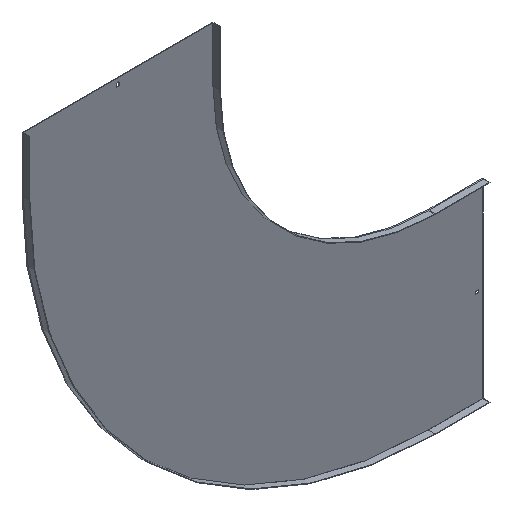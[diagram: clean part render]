
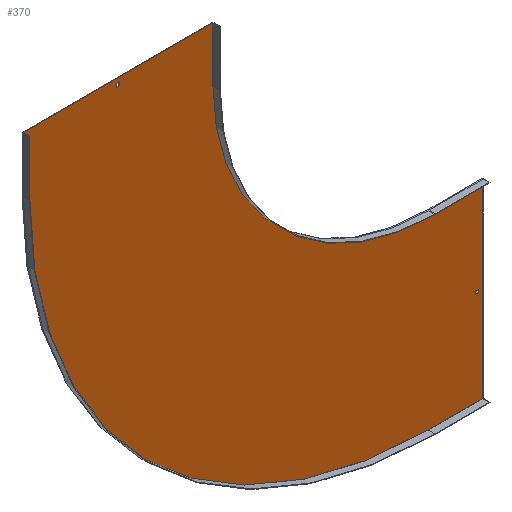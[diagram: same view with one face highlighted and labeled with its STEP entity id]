
A CAD part, isometric view. The second image highlights one B-rep face of the part: STEP entity #370.
In plain terms, the highlighted planar face has unit normal (0, -1, 0).
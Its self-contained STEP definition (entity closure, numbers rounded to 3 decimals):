
#3 = CARTESIAN_POINT ( 'NONE',  ( -1111.5, -1.5, 150. ) ) ;
#10 = CARTESIAN_POINT ( 'NONE',  ( 150., -1.5, -1110. ) ) ;
#11 = ORIENTED_EDGE ( 'NONE', *, *, #529, .F. ) ;
#12 = LINE ( 'NONE', #260, #812 ) ;
#32 = FACE_OUTER_BOUND ( 'NONE', #673, .T. ) ;
#33 = EDGE_CURVE ( 'NONE', #456, #139, #274, .T. ) ;
#36 = CARTESIAN_POINT ( 'NONE',  ( 138., -1.5, 0. ) ) ;
#38 = ORIENTED_EDGE ( 'NONE', *, *, #836, .F. ) ;
#39 = DIRECTION ( 'NONE',  ( 0., 0., 1. ) ) ;
#41 = CARTESIAN_POINT ( 'NONE',  ( -590., -1.5, 150. ) ) ;
#48 = VECTOR ( 'NONE', #704, 1000. ) ;
#52 = CARTESIAN_POINT ( 'NONE',  ( 129., -1.5, 0. ) ) ;
#58 = ORIENTED_EDGE ( 'NONE', *, *, #725, .T. ) ;
#65 = CARTESIAN_POINT ( 'NONE',  ( 0., -1.5, 0. ) ) ;
#80 = FACE_BOUND ( 'NONE', #230, .T. ) ;
#82 = VERTEX_POINT ( 'NONE', #10 ) ;
#85 = LINE ( 'NONE', #695, #839 ) ;
#89 = CARTESIAN_POINT ( 'NONE',  ( 0., -1.5, 0. ) ) ;
#90 = VERTEX_POINT ( 'NONE', #371 ) ;
#92 = LINE ( 'NONE', #363, #634 ) ;
#100 = VECTOR ( 'NONE', #162, 1000. ) ;
#102 = ORIENTED_EDGE ( 'NONE', *, *, #408, .F. ) ;
#114 = VECTOR ( 'NONE', #39, 1000. ) ;
#132 = EDGE_CURVE ( 'NONE', #516, #789, #769, .T. ) ;
#139 = VERTEX_POINT ( 'NONE', #41 ) ;
#148 = LINE ( 'NONE', #282, #195 ) ;
#150 = ORIENTED_EDGE ( 'NONE', *, *, #559, .T. ) ;
#151 = DIRECTION ( 'NONE',  ( 0., 0., -1. ) ) ;
#152 = ORIENTED_EDGE ( 'NONE', *, *, #325, .F. ) ;
#162 = DIRECTION ( 'NONE',  ( 0., 0., -1. ) ) ;
#163 = DIRECTION ( 'NONE',  ( 0., 0., -1. ) ) ;
#169 = VECTOR ( 'NONE', #501, 1000. ) ;
#179 = CARTESIAN_POINT ( 'NONE',  ( 0., -1.5, -590. ) ) ;
#181 = ORIENTED_EDGE ( 'NONE', *, *, #840, .T. ) ;
#191 = CARTESIAN_POINT ( 'NONE',  ( 150., -1.5, -590. ) ) ;
#195 = VECTOR ( 'NONE', #151, 1000. ) ;
#201 = CARTESIAN_POINT ( 'NONE',  ( 0., -1.5, -846.75 ) ) ;
#224 = DIRECTION ( 'NONE',  ( 0., 0., -1. ) ) ;
#227 = CARTESIAN_POINT ( 'NONE',  ( 129., -1.5, -853.25 ) ) ;
#228 = CARTESIAN_POINT ( 'NONE',  ( 0., -1.5, -590. ) ) ;
#230 = EDGE_LOOP ( 'NONE', ( #152, #396, #38, #663 ) ) ;
#234 = ORIENTED_EDGE ( 'NONE', *, *, #284, .F. ) ;
#242 = CARTESIAN_POINT ( 'NONE',  ( 0., -1.5, 129. ) ) ;
#256 = CARTESIAN_POINT ( 'NONE',  ( 0., -1.5, -1110. ) ) ;
#260 = CARTESIAN_POINT ( 'NONE',  ( 150., -1.5, -1110. ) ) ;
#272 = DIRECTION ( 'NONE',  ( 0., -1., 0. ) ) ;
#274 = LINE ( 'NONE', #3, #292 ) ;
#278 = VECTOR ( 'NONE', #607, 1000. ) ;
#280 = EDGE_LOOP ( 'NONE', ( #58, #421, #150, #181 ) ) ;
#282 = CARTESIAN_POINT ( 'NONE',  ( -590., -1.5, 150. ) ) ;
#284 = EDGE_CURVE ( 'NONE', #449, #393, #567, .T. ) ;
#292 = VECTOR ( 'NONE', #595, 1000. ) ;
#298 = DIRECTION ( 'NONE',  ( -1., 0., 0. ) ) ;
#325 = EDGE_CURVE ( 'NONE', #90, #516, #799, .T. ) ;
#340 = VECTOR ( 'NONE', #515, 1000. ) ;
#361 = DIRECTION ( 'NONE',  ( 0., -1., 0. ) ) ;
#363 = CARTESIAN_POINT ( 'NONE',  ( 0., -1.5, -853.25 ) ) ;
#366 = VERTEX_POINT ( 'NONE', #826 ) ;
#370 = ADVANCED_FACE ( 'NONE', ( #80, #32, #552 ), #549, .T. ) ;
#371 = CARTESIAN_POINT ( 'NONE',  ( 138., -1.5, -846.75 ) ) ;
#393 = VERTEX_POINT ( 'NONE', #228 ) ;
#396 = ORIENTED_EDGE ( 'NONE', *, *, #477, .F. ) ;
#400 = DIRECTION ( 'NONE',  ( -1., 0., 0. ) ) ;
#408 = EDGE_CURVE ( 'NONE', #586, #456, #621, .T. ) ;
#411 = CARTESIAN_POINT ( 'NONE',  ( 0., -1.5, 0. ) ) ;
#416 = EDGE_CURVE ( 'NONE', #139, #449, #148, .T. ) ;
#421 = ORIENTED_EDGE ( 'NONE', *, *, #814, .T. ) ;
#438 = VERTEX_POINT ( 'NONE', #543 ) ;
#445 = ORIENTED_EDGE ( 'NONE', *, *, #636, .F. ) ;
#446 = CARTESIAN_POINT ( 'NONE',  ( 129., -1.5, -846.75 ) ) ;
#449 = VERTEX_POINT ( 'NONE', #820 ) ;
#455 = CARTESIAN_POINT ( 'NONE',  ( -853.25, -1.5, 0. ) ) ;
#456 = VERTEX_POINT ( 'NONE', #693 ) ;
#471 = DIRECTION ( 'NONE',  ( 0., 1., 0. ) ) ;
#477 = EDGE_CURVE ( 'NONE', #679, #90, #701, .T. ) ;
#496 = LINE ( 'NONE', #557, #100 ) ;
#499 = VERTEX_POINT ( 'NONE', #657 ) ;
#501 = DIRECTION ( 'NONE',  ( 0., 0., 1. ) ) ;
#515 = DIRECTION ( 'NONE',  ( 0., 0., -1. ) ) ;
#516 = VERTEX_POINT ( 'NONE', #446 ) ;
#519 = CARTESIAN_POINT ( 'NONE',  ( -853.25, -1.5, 138. ) ) ;
#525 = DIRECTION ( 'NONE',  ( -1., 0., 0. ) ) ;
#527 = AXIS2_PLACEMENT_3D ( 'NONE', #411, #272, #538 ) ;
#529 = EDGE_CURVE ( 'NONE', #393, #659, #583, .T. ) ;
#538 = DIRECTION ( 'NONE',  ( 0., 0., -1. ) ) ;
#541 = VECTOR ( 'NONE', #400, 1000. ) ;
#543 = CARTESIAN_POINT ( 'NONE',  ( -853.25, -1.5, 129. ) ) ;
#549 = PLANE ( 'NONE',  #646 ) ;
#552 = FACE_BOUND ( 'NONE', #280, .T. ) ;
#557 = CARTESIAN_POINT ( 'NONE',  ( 150., -1.5, -588.5 ) ) ;
#559 = EDGE_CURVE ( 'NONE', #499, #438, #638, .T. ) ;
#567 = CIRCLE ( 'NONE', #527, 590. ) ;
#570 = ORIENTED_EDGE ( 'NONE', *, *, #731, .F. ) ;
#571 = CIRCLE ( 'NONE', #714, 1110. ) ;
#580 = ORIENTED_EDGE ( 'NONE', *, *, #416, .F. ) ;
#583 = LINE ( 'NONE', #179, #48 ) ;
#586 = VERTEX_POINT ( 'NONE', #837 ) ;
#593 = CARTESIAN_POINT ( 'NONE',  ( 0., -1.5, 138. ) ) ;
#595 = DIRECTION ( 'NONE',  ( 1., 0., 0. ) ) ;
#607 = DIRECTION ( 'NONE',  ( 1., 0., 0. ) ) ;
#621 = LINE ( 'NONE', #684, #169 ) ;
#628 = DIRECTION ( 'NONE',  ( 1., 0., 0. ) ) ;
#634 = VECTOR ( 'NONE', #628, 1000. ) ;
#636 = EDGE_CURVE ( 'NONE', #843, #586, #571, .T. ) ;
#638 = LINE ( 'NONE', #242, #711 ) ;
#641 = DIRECTION ( 'NONE',  ( 0., 0., 1. ) ) ;
#646 = AXIS2_PLACEMENT_3D ( 'NONE', #89, #361, #163 ) ;
#657 = CARTESIAN_POINT ( 'NONE',  ( -846.75, -1.5, 129. ) ) ;
#659 = VERTEX_POINT ( 'NONE', #191 ) ;
#663 = ORIENTED_EDGE ( 'NONE', *, *, #132, .F. ) ;
#668 = LINE ( 'NONE', #593, #278 ) ;
#673 = EDGE_LOOP ( 'NONE', ( #815, #102, #445, #570, #800, #11, #234, #580 ) ) ;
#679 = VERTEX_POINT ( 'NONE', #791 ) ;
#684 = CARTESIAN_POINT ( 'NONE',  ( -1110., -1.5, 0. ) ) ;
#693 = CARTESIAN_POINT ( 'NONE',  ( -1110., -1.5, 150. ) ) ;
#695 = CARTESIAN_POINT ( 'NONE',  ( -846.75, -1.5, 0. ) ) ;
#701 = LINE ( 'NONE', #36, #728 ) ;
#704 = DIRECTION ( 'NONE',  ( 1., 0., 0. ) ) ;
#711 = VECTOR ( 'NONE', #298, 1000. ) ;
#714 = AXIS2_PLACEMENT_3D ( 'NONE', #65, #471, #735 ) ;
#720 = LINE ( 'NONE', #455, #114 ) ;
#725 = EDGE_CURVE ( 'NONE', #746, #366, #668, .T. ) ;
#728 = VECTOR ( 'NONE', #641, 1000. ) ;
#731 = EDGE_CURVE ( 'NONE', #82, #843, #12, .T. ) ;
#735 = DIRECTION ( 'NONE',  ( 0., 0., -1. ) ) ;
#746 = VERTEX_POINT ( 'NONE', #519 ) ;
#769 = LINE ( 'NONE', #52, #340 ) ;
#789 = VERTEX_POINT ( 'NONE', #227 ) ;
#791 = CARTESIAN_POINT ( 'NONE',  ( 138., -1.5, -853.25 ) ) ;
#799 = LINE ( 'NONE', #201, #541 ) ;
#800 = ORIENTED_EDGE ( 'NONE', *, *, #830, .F. ) ;
#812 = VECTOR ( 'NONE', #525, 1000. ) ;
#814 = EDGE_CURVE ( 'NONE', #366, #499, #85, .T. ) ;
#815 = ORIENTED_EDGE ( 'NONE', *, *, #33, .F. ) ;
#820 = CARTESIAN_POINT ( 'NONE',  ( -590., -1.5, 0. ) ) ;
#826 = CARTESIAN_POINT ( 'NONE',  ( -846.75, -1.5, 138. ) ) ;
#830 = EDGE_CURVE ( 'NONE', #659, #82, #496, .T. ) ;
#836 = EDGE_CURVE ( 'NONE', #789, #679, #92, .T. ) ;
#837 = CARTESIAN_POINT ( 'NONE',  ( -1110., -1.5, 0. ) ) ;
#839 = VECTOR ( 'NONE', #224, 1000. ) ;
#840 = EDGE_CURVE ( 'NONE', #438, #746, #720, .T. ) ;
#843 = VERTEX_POINT ( 'NONE', #256 ) ;
